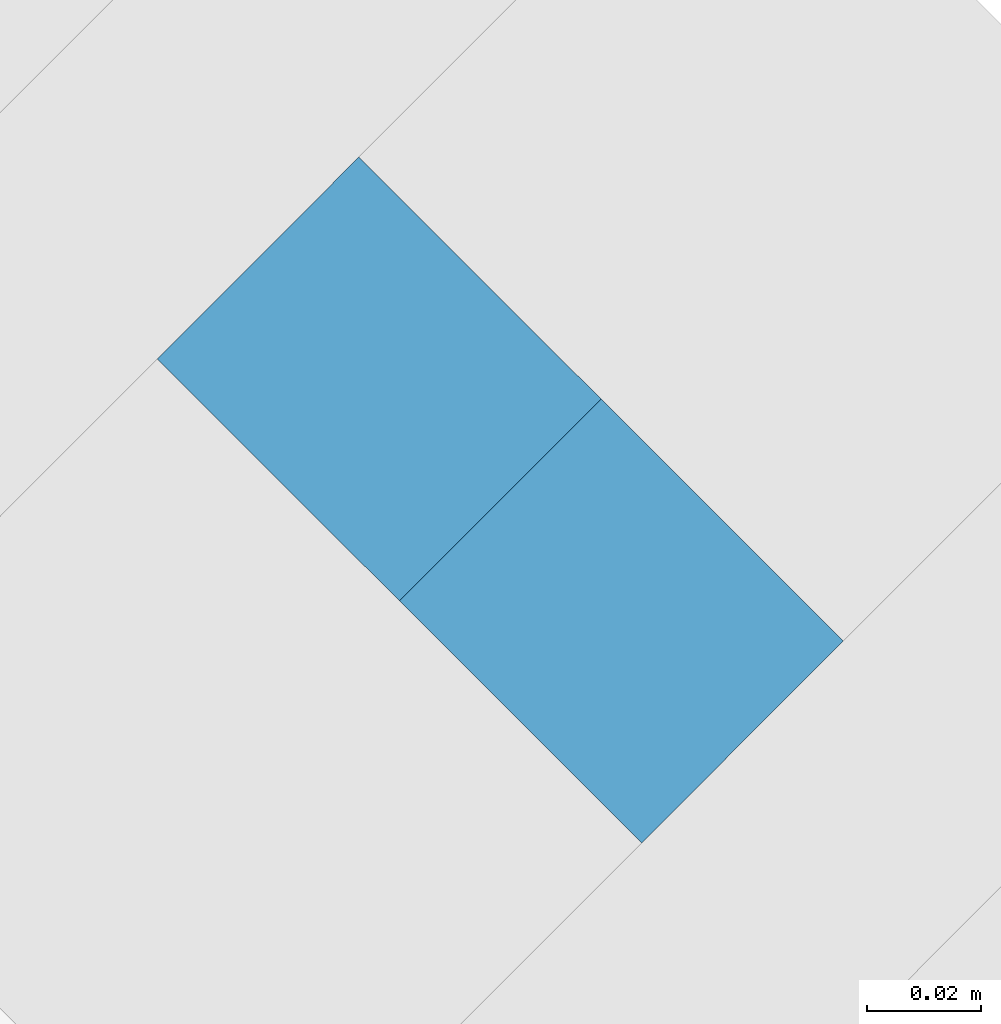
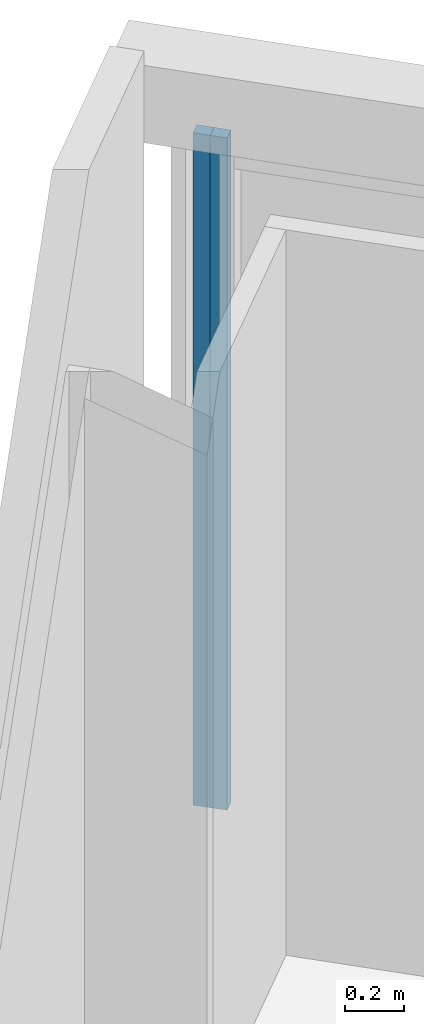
# One storey, part 2 of 6: 2 plates, 2 elements without a shape of their own.
"""IFC2X3 building model written with IfcOpenShell, lengths in millimetres."""

from ifc_helpers import new_model, entity, si_unit, converted_unit, derived_unit, direction, frame, frame_2d, origin, origin_with_axes, place, context, subcontext, project, spatial, rectangle, extrude, source, transform, mapped, material, type_object, element, aggregate, save


model = new_model("IFC2X3")

# Units and contexts
model_context = context("Model", 3, precision=0.01, world=origin(), true_north=direction((6.12323399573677e-17, 1.0)))
plan_context = context("Plan", 3, precision=1e-05, world=origin_with_axes())
body_context = subcontext(model_context, "Body", "Model", "MODEL_VIEW")
ifc_project = project(units=[converted_unit("PLANEANGLEUNIT", "DEGREE", entity("IfcPositiveLengthMeasure", 0.0174532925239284), si_unit("PLANEANGLEUNIT", "RADIAN"), dimensions=[0, 0, 0, 0, 0, 0, 0]), si_unit("AREAUNIT", "SQUARE_METRE"), si_unit("LENGTHUNIT", "METRE", prefix="MILLI"), si_unit("MASSUNIT", "GRAM", prefix="KILO"), si_unit("POWERUNIT", "WATT"), si_unit("PRESSUREUNIT", "PASCAL", prefix="KILO"), si_unit("FORCEUNIT", "NEWTON", prefix="KILO"), si_unit("ELECTRICVOLTAGEUNIT", "VOLT"), si_unit("ELECTRICCURRENTUNIT", "AMPERE"), si_unit("THERMODYNAMICTEMPERATUREUNIT", "DEGREE_CELSIUS"), si_unit("TIMEUNIT", "SECOND"), si_unit("VOLUMEUNIT", "CUBIC_METRE"), derived_unit("LINEARVELOCITYUNIT", [(si_unit("LENGTHUNIT", "METRE"), 1), (si_unit("TIMEUNIT", "SECOND"), -1)]), derived_unit("VOLUMETRICFLOWRATEUNIT", [(si_unit("VOLUMEUNIT", "CUBIC_METRE"), 1), (si_unit("TIMEUNIT", "SECOND"), -1)]), derived_unit("THERMALTRANSMITTANCEUNIT", [(si_unit("POWERUNIT", "WATT"), 1), (si_unit("THERMODYNAMICTEMPERATUREUNIT", "KELVIN"), -1), (si_unit("AREAUNIT", "SQUARE_METRE"), -1)]), derived_unit("SOUNDPRESSUREUNIT", [(si_unit("PRESSUREUNIT", "PASCAL"), 1)])], contexts=[model_context, plan_context])

# Site, building, storey
site_placement = place(None, frame((0.0, -2.21771188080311e-09, 0.0), z_axis=(0.0, 0.0, 1.0), x_axis=(0.266093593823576, -0.963947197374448, 0.0)))
site = spatial("IfcSite", under=ifc_project, at=site_placement, Name="ENZV", CompositionType="ELEMENT")
building_placement = place(site_placement, origin_with_axes())
building = spatial("IfcBuilding", under=site, at=building_placement, Name="ZV001", CompositionType="ELEMENT")
storey_placement = place(building_placement, frame((0.0, 0.0, 9300.0), z_axis=(0.0, 0.0, 1.0), x_axis=(1.0, 0.0, 0.0)))
storey = spatial("IfcBuildingStorey", under=building, at=storey_placement, Name="H02", CompositionType="ELEMENT", Elevation=9300.0)

# Curtain wall, plate
curtain_wall_type = type_object("IfcCurtainWallType", Name="Curtain Wall:fasade", PredefinedType="NOTDEFINED")
curtain_wall_1_placement = place(storey_placement, frame((0.0, 0.0, -9300.0), z_axis=(0.0, 0.0, 1.0), x_axis=(1.0, 0.0, 0.0)))
curtain_wall_1 = element("IfcCurtainWall", 1, at=curtain_wall_1_placement, inside=storey, type_object=curtain_wall_type, Name="Curtain Wall:fasade", ObjectType="Curtain Wall:fasade")
ifc_material = material(Name="Default")
plate_type_1 = type_object("IfcPlateType", Name="System Panel:Tettfelt 50mm", PredefinedType="CURTAIN_PANEL", material=ifc_material)
shared_shape = source(origin(), body_context, "Body", "SweptSolid", [
    extrude(rectangle(XDim=50.0, YDim=60.0005724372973, at=frame_2d((0.0, 2.94875235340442e-12), x_axis=(1.0, 0.0))), frame((0.0, -25.0, 0.0), z_axis=(0.0, 0.0, 1.0), x_axis=(0.0, 1.0, 0.0)), (0.0, 0.0, 1.0), 2779.99999999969),
])
plate_1_placement = place(curtain_wall_1_placement, frame((-263854.442018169, 427117.201061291, 9700.0), z_axis=(0.0, 0.0, 1.0), x_axis=(-0.86940438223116, -0.494101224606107, 0.0)))
plate_1 = element("IfcPlate", 2, at=plate_1_placement, type_object=plate_type_1, material=ifc_material, Name="System Panel:Tettfelt 50mm", ObjectType="System Panel:Tettfelt 50mm", context=body_context, shape_type="MappedRepresentation", body=[
    mapped(shared_shape, transform((0.0, 0.0, 0.0), scale=1.0)),
])
aggregate(curtain_wall_1, [plate_1])

curtain_wall_2_placement = place(storey_placement, frame((0.0, 0.0, -9300.0), z_axis=(0.0, 0.0, 1.0), x_axis=(1.0, 0.0, 0.0)))
curtain_wall_2 = element("IfcCurtainWall", 3, at=curtain_wall_2_placement, inside=storey, type_object=curtain_wall_type, Name="Curtain Wall:fasade", ObjectType="Curtain Wall:fasade")
plate_type_2 = type_object("IfcPlateType", Name="System Panel:Tettfelt 50mm", PredefinedType="CURTAIN_PANEL", material=ifc_material)
plate_2_placement = place(curtain_wall_2_placement, frame((-263906.606280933, 427087.55498791, 9700.0), z_axis=(0.0, 0.0, 1.0), x_axis=(-0.86940438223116, -0.494101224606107, 0.0)))
plate_2 = element("IfcPlate", 4, at=plate_2_placement, type_object=plate_type_2, material=ifc_material, Name="System Panel:Tettfelt 50mm", ObjectType="System Panel:Tettfelt 50mm", context=body_context, shape_type="MappedRepresentation", body=[
    mapped(shared_shape, transform((0.0, 0.0, 0.0), scale=1.0)),
])
aggregate(curtain_wall_2, [plate_2])

save(model, "model.ifc")
